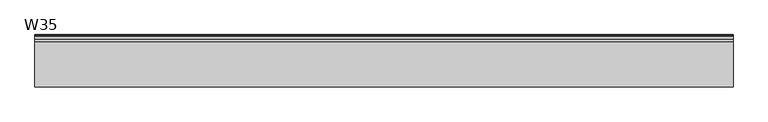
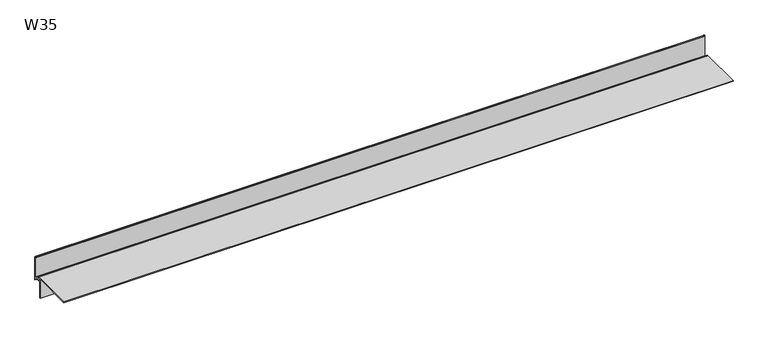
"""IFC4 building model written with IfcOpenShell, lengths in millimetres: proxy geometry, W35 Profil okapowy prosty z rynną : W35."""

from ifc_helpers import new_model, si_unit, point, frame, frame_2d, origin, place, context, project, spatial, polyline, circle_curve, trimmed, segment, composite_curve, outline, extrude, source, transform, mapped, element, save


def w35_89e77db3(model_context):
    return source(origin(), model_context, "Body", "SweptSolid", [
        extrude(outline(composite_curve([segment(polyline([(6.45625, -36.4912009), (-73.5437501, -36.4912009), (-73.5437501, -34.9912009), (10.9562499, -34.9912009)]), True, "CONTINUOUS"), segment(trimmed(circle_curve(frame_2d((10.9605833, -38.9787852)), 3.9875866), [point((10.9562499, -34.9912009))], [point((14.8884421, -38.291201))], False, "CARTESIAN"), True, "CONTINUOUS"), segment(polyline([(14.8884421, -38.291201), (13.3562498, -38.291201)]), True, "CONTINUOUS"), segment(trimmed(circle_curve(frame_2d((10.9562498, -38.9912009)), 2.5), [point((13.3562498, -38.291201))], [point((10.9562498, -36.4912009))], True, "CARTESIAN"), True, "CONTINUOUS"), segment(polyline([(10.9562498, -36.4912009), (7.9562498, -36.4912009), (7.9562498, -41.7912008), (22.5562497, -41.7912008), (22.5562497, -2.2682013)]), True, "CONTINUOUS"), segment(trimmed(circle_curve(frame_2d((21.756241, -2.2682013)), 0.8000089), [point((22.5562497, -2.2682013))], [point((21.9232762, -1.4858246))], True, "CARTESIAN"), True, "CONTINUOUS"), segment(polyline([(21.9232762, -1.4858246), (22.2404603, -0.0001657)]), True, "CONTINUOUS"), segment(trimmed(circle_curve(frame_2d((21.7562505, -2.248618)), 2.2999994), [point((22.2404603, -0.0001657))], [point((24.0562499, -2.248618))], False, "CARTESIAN"), True, "CONTINUOUS"), segment(polyline([(24.0562499, -2.248618), (24.0562499, -48.6447543), (22.5562498, -47.1447542), (22.5562498, -43.2912011), (7.9562498, -43.2912011), (7.9562498, -76.1912009), (6.4562498, -76.1912009), (6.45625, -36.4912009)]), True, "CONTINUOUS")], self_intersect=False)), frame((0.0, 0.0, 0.0), z_axis=(1.0, 0.0, 0.0), x_axis=(0.0, 1.0, 0.0)), (0.0, 0.0, 1.0), 1300.0),
    ])


if __name__ == "__main__":
    model = new_model("IFC4")
    model_context = context("Model", 3, world=origin())
    ifc_project = project(units=[si_unit("LENGTHUNIT", "METRE", prefix="MILLI")], contexts=[model_context])
    site = spatial("IfcSite", under=ifc_project)
    building = spatial("IfcBuilding", under=site)
    placement = place(None, origin())
    w35_shape = w35_89e77db3(model_context)
    element("IfcBuildingElementProxy", 1, Name="W35 Profil okapowy prosty z rynną : W35", ObjectType="W35 Profil okapowy prosty z rynną : W35", at=placement, inside=building, context=model_context, shape_type="MappedRepresentation", body=[
        mapped(w35_shape, transform((0.0, 0.0, 0.0), x_axis=(1.0, 0.0, 0.0), y_axis=(0.0, 1.0, 0.0), z_axis=(0.0, 0.0, 1.0))),
    ])
    save(model, "model.ifc")
